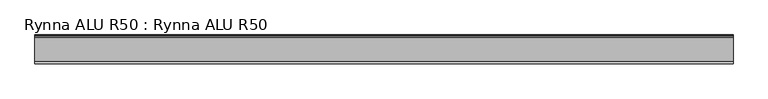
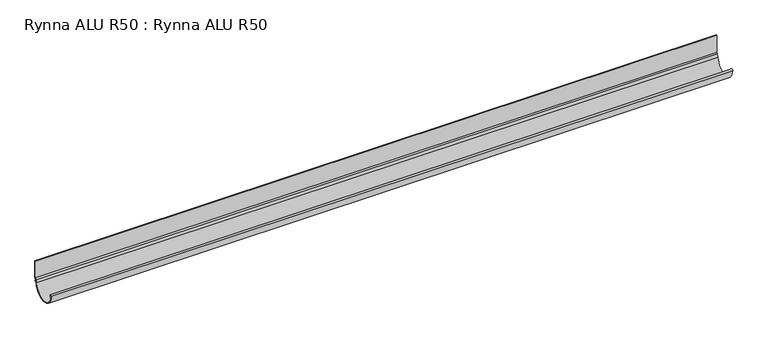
"""IFC4 building model written with IfcOpenShell, lengths in millimetres: proxy geometry, Rynna ALU R50 : Rynna ALU R50."""

from ifc_helpers import new_model, si_unit, point, frame, frame_2d, origin, place, context, project, spatial, polyline, circle_curve, trimmed, segment, composite_curve, outline, extrude, source, transform, mapped, element, save


def rynna_alu_r50_rynna_alu_r50_e24e8979(model_context):
    return source(origin(), model_context, "Body", "SweptSolid", [
        extrude(outline(composite_curve([segment(polyline([(0.6978396, -5.5427289), (0.6978396, -39.5252625), (-1.8149767, -41.8701356), (-2.328284, -45.5225054), (0.9565767, -44.1281649), (0.1767814, -46.0765907), (-2.6292486, -47.6619658)]), True, "CONTINUOUS"), segment(trimmed(circle_curve(frame_2d((-27.3646611, -44.302303)), 24.9625312), [point((-2.6292486, -47.6619658))], [point((-52.3271923, -44.302303))], False, "CARTESIAN"), True, "CONTINUOUS"), segment(trimmed(circle_curve(frame_2d((-50.3771937, -44.3000011)), 1.95), [point((-52.3271923, -44.302303))], [point((-50.8512717, -46.1914952))], False, "CARTESIAN"), True, "CONTINUOUS"), segment(trimmed(circle_curve(frame_2d((-27.3646611, -44.302303)), 23.5624686), [point((-50.8512717, -46.1914952))], [point((-3.9370468, -46.8196069))], True, "CARTESIAN"), True, "CONTINUOUS"), segment(polyline([(-3.9370468, -46.8196069), (-3.0707013, -41.065916), (-0.7021617, -38.7702547), (-0.7021617, -5.5427289), (0.6978396, -5.5427289)]), True, "CONTINUOUS")], self_intersect=False)), frame((-641.7354943, 0.0, 0.0), z_axis=(1.0, 0.0, 0.0), x_axis=(0.0, 1.0, 0.0)), (0.0, 0.0, 1.0), 1283.4709887),
    ])


if __name__ == "__main__":
    model = new_model("IFC4")
    model_context = context("Model", 3, world=origin())
    ifc_project = project(units=[si_unit("LENGTHUNIT", "METRE", prefix="MILLI")], contexts=[model_context])
    site = spatial("IfcSite", under=ifc_project)
    building = spatial("IfcBuilding", under=site)
    placement = place(None, origin())
    rynna_alu_r50_rynna_alu_r50_shape = rynna_alu_r50_rynna_alu_r50_e24e8979(model_context)
    element("IfcBuildingElementProxy", 1, Name="Rynna ALU R50 : Rynna ALU R50", ObjectType="Rynna ALU R50 : Rynna ALU R50", at=placement, inside=building, context=model_context, shape_type="MappedRepresentation", body=[
        mapped(rynna_alu_r50_rynna_alu_r50_shape, transform((0.0, 0.0, 0.0), x_axis=(1.0, 0.0, 0.0), y_axis=(0.0, 1.0, 0.0), z_axis=(0.0, 0.0, 1.0))),
    ])
    save(model, "model.ifc")
